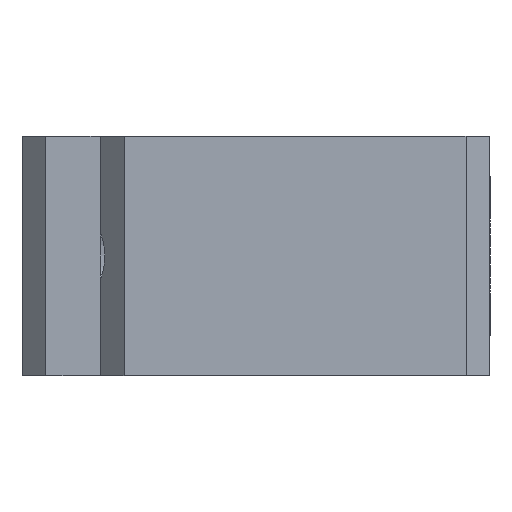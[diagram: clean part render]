
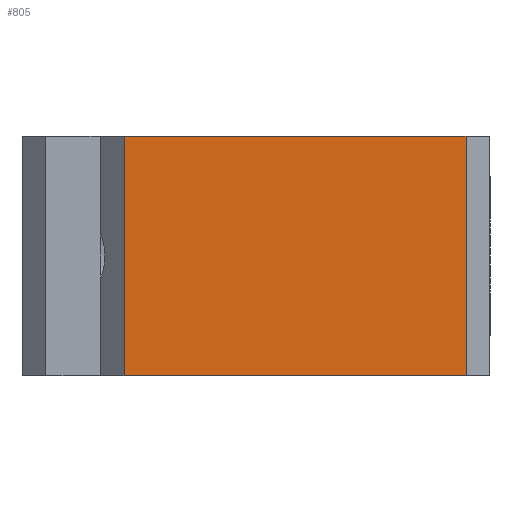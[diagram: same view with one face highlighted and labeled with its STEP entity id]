
A CAD part, left-side view. The second image highlights one B-rep face of the part: STEP entity #805.
In plain terms, the highlighted planar face has unit normal (-1, 0, 0).
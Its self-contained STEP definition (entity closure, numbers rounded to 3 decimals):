
#607 = VECTOR ( 'NONE', #16689, 1000. ) ;
#805 = ADVANCED_FACE ( 'NONE', ( #16802 ), #4535, .F. ) ;
#1565 = ORIENTED_EDGE ( 'NONE', *, *, #14745, .F. ) ;
#2079 = VERTEX_POINT ( 'NONE', #7613 ) ;
#2935 = CARTESIAN_POINT ( 'NONE',  ( 4.022, 18.78, -10. ) ) ;
#3046 = LINE ( 'NONE', #15616, #10936 ) ;
#3056 = CARTESIAN_POINT ( 'NONE',  ( 4.022, -9.72, 10. ) ) ;
#3682 = EDGE_CURVE ( 'NONE', #14801, #4560, #11030, .T. ) ;
#3695 = ORIENTED_EDGE ( 'NONE', *, *, #13233, .F. ) ;
#4364 = DIRECTION ( 'NONE',  ( 0., 1., 0. ) ) ;
#4535 = PLANE ( 'NONE',  #16289 ) ;
#4560 = VERTEX_POINT ( 'NONE', #2935 ) ;
#5181 = DIRECTION ( 'NONE',  ( 0., -1., 0. ) ) ;
#5940 = LINE ( 'NONE', #12885, #14600 ) ;
#6049 = DIRECTION ( 'NONE',  ( 0., 0., 1. ) ) ;
#6347 = LINE ( 'NONE', #14392, #8136 ) ;
#7441 = EDGE_LOOP ( 'NONE', ( #8693, #1565, #17157, #3695 ) ) ;
#7613 = CARTESIAN_POINT ( 'NONE',  ( 4.022, 18.78, 10. ) ) ;
#7706 = CARTESIAN_POINT ( 'NONE',  ( 4.022, -9.72, -10. ) ) ;
#8136 = VECTOR ( 'NONE', #5181, 1000. ) ;
#8693 = ORIENTED_EDGE ( 'NONE', *, *, #10921, .F. ) ;
#8745 = CARTESIAN_POINT ( 'NONE',  ( 4.022, -9.72, 10. ) ) ;
#9964 = CARTESIAN_POINT ( 'NONE',  ( 4.022, -11.72, -10. ) ) ;
#10921 = EDGE_CURVE ( 'NONE', #2079, #17137, #6347, .T. ) ;
#10936 = VECTOR ( 'NONE', #6049, 1000. ) ;
#11030 = LINE ( 'NONE', #9964, #607 ) ;
#12486 = DIRECTION ( 'NONE',  ( 1., 0., 0. ) ) ;
#12885 = CARTESIAN_POINT ( 'NONE',  ( 4.022, -9.72, 10. ) ) ;
#13233 = EDGE_CURVE ( 'NONE', #17137, #14801, #5940, .T. ) ;
#14392 = CARTESIAN_POINT ( 'NONE',  ( 4.022, -9.72, 10. ) ) ;
#14600 = VECTOR ( 'NONE', #15596, 1000. ) ;
#14745 = EDGE_CURVE ( 'NONE', #4560, #2079, #3046, .T. ) ;
#14801 = VERTEX_POINT ( 'NONE', #7706 ) ;
#15596 = DIRECTION ( 'NONE',  ( 0., 0., -1. ) ) ;
#15616 = CARTESIAN_POINT ( 'NONE',  ( 4.022, 18.78, 10. ) ) ;
#16289 = AXIS2_PLACEMENT_3D ( 'NONE', #8745, #12486, #4364 ) ;
#16689 = DIRECTION ( 'NONE',  ( 0., 1., 0. ) ) ;
#16802 = FACE_OUTER_BOUND ( 'NONE', #7441, .T. ) ;
#17137 = VERTEX_POINT ( 'NONE', #3056 ) ;
#17157 = ORIENTED_EDGE ( 'NONE', *, *, #3682, .F. ) ;
